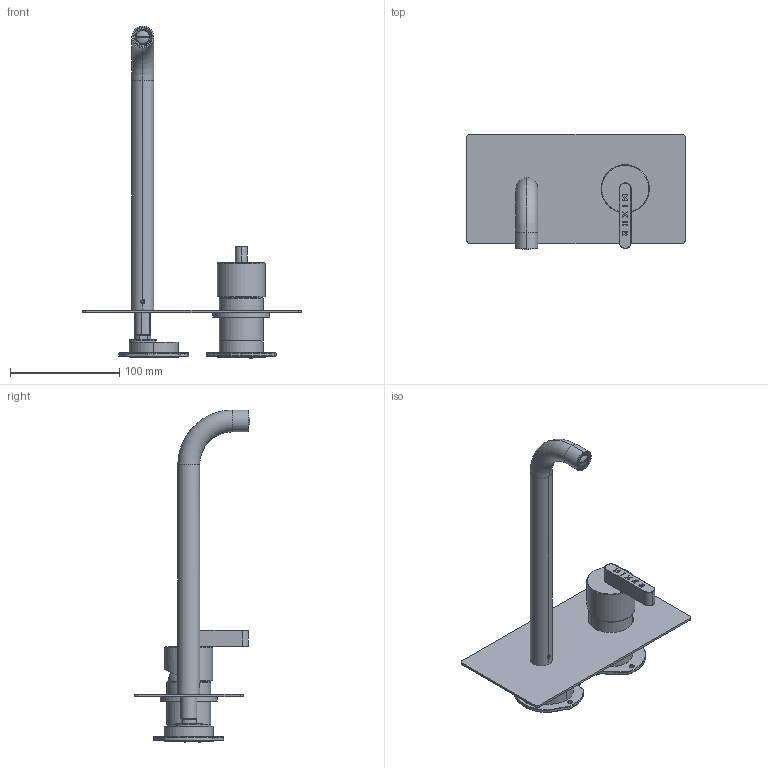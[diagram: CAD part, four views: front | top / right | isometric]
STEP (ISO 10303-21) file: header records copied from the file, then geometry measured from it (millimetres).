
FILE_DESCRIPTION (( 'STEP AP203' ), '1' );
FILE_NAME ('KOE89.STEP', '2024-01-18T08:13:22', ( '' ), ( '' ), 'SwSTEP 2.0', 'SolidWorks 2023', '' );
FILE_SCHEMA (( 'CONFIG_CONTROL_DESIGN' ));
Length unit declared in the file: millimetre
Products named in the file (30): C31.00.0006.01; C47.00.0015; C10.00.0015; C24.1837.00.0; C12.00.0008; C11.15.0006; C24.2109.00.0; C11.10.0025; C24.2033.00.0; C11.10.0061; C24.2099.00.0; C11.14.0003; KOE89; C11.15.0005; C24.1955.00.1; C24.2035.00.0; AS816_00; C28.2098.00.0; C12.00.0051; C24.2096.00.0; C25.2056.00.0; AS861_00; C24.1932.00.0; C47.00.0023.01; C12.00.0057; C25.2701.00; C13.00.0043; C21.1428.00.0; AS1086; AS862_00
Assembly tree (34 placements, depth 3):
  KOE89
    AS861_00
      C24.2096.00.0
      C24.2109.00.0
      C11.10.0061  x3
      C28.2098.00.0
      C12.00.0057
      C24.1837.00.0
      C47.00.0015
      C31.00.0006.01
      C11.15.0005
      C10.00.0015
    AS862_00
      C24.2099.00.0
      C24.1955.00.1
      C12.00.0008
      C12.00.0051  x3
      C21.1428.00.0
    C24.1932.00.0
    C13.00.0043
    AS1086
      C25.2701.00
      C25.2056.00.0
    AS816_00
      C24.2035.00.0
      C11.15.0006
      C11.10.0025
      C24.2033.00.0
    C11.14.0003  x2
    C47.00.0023.01
Bounding box: 200 x 105.99 x 303.6 mm (x, y, z)
Volume: 205378.3 mm3; surface area: 151049.6 mm2
Topology: 31 solids, 31 shells, 1335 faces, 3160 edges, 1933 vertices
Faces by surface type: cylinder 481, plane 384, cone 294, torus 130, bspline 46
Entity records: 41647 total; most frequent: CARTESIAN_POINT 8536, DIRECTION 6783, ORIENTED_EDGE 5924, EDGE_CURVE 2962, AXIS2_PLACEMENT_3D 2735, VERTEX_POINT 1827, CIRCLE 1480, EDGE_LOOP 1409
